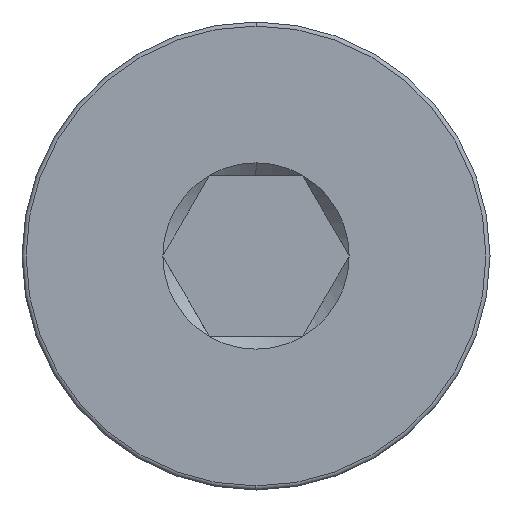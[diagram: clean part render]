
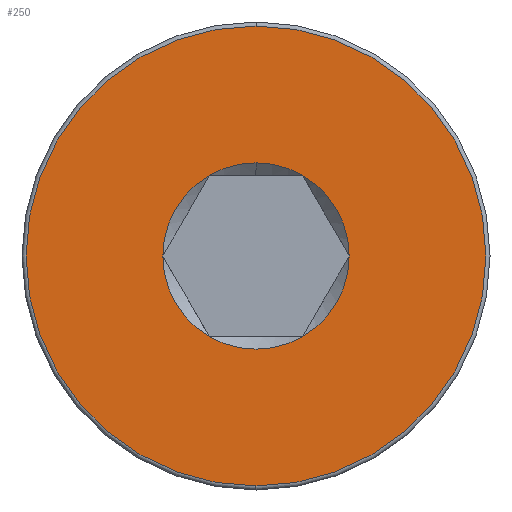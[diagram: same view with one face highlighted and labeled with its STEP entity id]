
A CAD part, left-side view. The second image highlights one B-rep face of the part: STEP entity #250.
In plain terms, the highlighted planar face has unit normal (-1, 0, 0).
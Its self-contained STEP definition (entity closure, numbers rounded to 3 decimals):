
#14 = DIRECTION ( 'NONE',  ( 0., 0., -1. ) ) ;
#17 = CIRCLE ( 'NONE', #689, 1.155 ) ;
#20 = VERTEX_POINT ( 'NONE', #426 ) ;
#33 = DIRECTION ( 'NONE',  ( 1., 0., 0. ) ) ;
#36 = ORIENTED_EDGE ( 'NONE', *, *, #466, .T. ) ;
#43 = CIRCLE ( 'NONE', #365, 1.155 ) ;
#57 = CARTESIAN_POINT ( 'NONE',  ( 0., 0., -2.85 ) ) ;
#69 = CARTESIAN_POINT ( 'NONE',  ( 0., 0., 0. ) ) ;
#72 = CIRCLE ( 'NONE', #224, 1.155 ) ;
#85 = CIRCLE ( 'NONE', #296, 1.155 ) ;
#90 = EDGE_CURVE ( 'NONE', #775, #651, #139, .T. ) ;
#101 = CARTESIAN_POINT ( 'NONE',  ( 0., -0.577, 1. ) ) ;
#103 = AXIS2_PLACEMENT_3D ( 'NONE', #712, #409, #288 ) ;
#111 = FACE_BOUND ( 'NONE', #747, .T. ) ;
#129 = CARTESIAN_POINT ( 'NONE',  ( 0., -1.155, 0. ) ) ;
#139 = CIRCLE ( 'NONE', #513, 1.155 ) ;
#159 = CARTESIAN_POINT ( 'NONE',  ( 0., 0., 0. ) ) ;
#161 = DIRECTION ( 'NONE',  ( -1., 0., 0. ) ) ;
#168 = PLANE ( 'NONE',  #327 ) ;
#181 = CIRCLE ( 'NONE', #619, 1.155 ) ;
#196 = DIRECTION ( 'NONE',  ( 0., 0., -1. ) ) ;
#214 = FACE_OUTER_BOUND ( 'NONE', #604, .T. ) ;
#222 = EDGE_CURVE ( 'NONE', #463, #252, #181, .T. ) ;
#223 = CARTESIAN_POINT ( 'NONE',  ( 0., 0., 0. ) ) ;
#224 = AXIS2_PLACEMENT_3D ( 'NONE', #69, #670, #677 ) ;
#229 = ORIENTED_EDGE ( 'NONE', *, *, #525, .T. ) ;
#250 = ADVANCED_FACE ( 'NONE', ( #214, #111 ), #168, .T. ) ;
#252 = VERTEX_POINT ( 'NONE', #101 ) ;
#262 = ORIENTED_EDGE ( 'NONE', *, *, #90, .T. ) ;
#270 = CARTESIAN_POINT ( 'NONE',  ( 0., 0., 1.155 ) ) ;
#288 = DIRECTION ( 'NONE',  ( 0., 0., -1. ) ) ;
#296 = AXIS2_PLACEMENT_3D ( 'NONE', #723, #427, #196 ) ;
#299 = DIRECTION ( 'NONE',  ( 0., 0., -1. ) ) ;
#314 = ORIENTED_EDGE ( 'NONE', *, *, #653, .T. ) ;
#327 = AXIS2_PLACEMENT_3D ( 'NONE', #159, #636, #410 ) ;
#329 = DIRECTION ( 'NONE',  ( 0., 0., 1. ) ) ;
#365 = AXIS2_PLACEMENT_3D ( 'NONE', #649, #596, #587 ) ;
#379 = AXIS2_PLACEMENT_3D ( 'NONE', #682, #161, #329 ) ;
#409 = DIRECTION ( 'NONE',  ( 1., 0., 0. ) ) ;
#410 = DIRECTION ( 'NONE',  ( 0., 0., 1. ) ) ;
#414 = CARTESIAN_POINT ( 'NONE',  ( 0., 0.577, 1. ) ) ;
#426 = CARTESIAN_POINT ( 'NONE',  ( 0., 0., 2.85 ) ) ;
#427 = DIRECTION ( 'NONE',  ( 1., 0., 0. ) ) ;
#431 = DIRECTION ( 'NONE',  ( 1., 0., 0. ) ) ;
#432 = DIRECTION ( 'NONE',  ( 0., 0., 1. ) ) ;
#441 = CIRCLE ( 'NONE', #103, 1.155 ) ;
#453 = CIRCLE ( 'NONE', #379, 2.85 ) ;
#463 = VERTEX_POINT ( 'NONE', #270 ) ;
#466 = EDGE_CURVE ( 'NONE', #20, #586, #453, .T. ) ;
#483 = CARTESIAN_POINT ( 'NONE',  ( 0., -0.577, -1. ) ) ;
#491 = CARTESIAN_POINT ( 'NONE',  ( 0., 0., 0. ) ) ;
#504 = CIRCLE ( 'NONE', #563, 2.85 ) ;
#507 = VERTEX_POINT ( 'NONE', #695 ) ;
#513 = AXIS2_PLACEMENT_3D ( 'NONE', #491, #431, #14 ) ;
#514 = DIRECTION ( 'NONE',  ( 1., 0., 0. ) ) ;
#525 = EDGE_CURVE ( 'NONE', #651, #463, #17, .T. ) ;
#563 = AXIS2_PLACEMENT_3D ( 'NONE', #735, #608, #432 ) ;
#576 = ORIENTED_EDGE ( 'NONE', *, *, #222, .T. ) ;
#577 = CARTESIAN_POINT ( 'NONE',  ( 0., 0., 0. ) ) ;
#580 = ORIENTED_EDGE ( 'NONE', *, *, #634, .T. ) ;
#586 = VERTEX_POINT ( 'NONE', #57 ) ;
#587 = DIRECTION ( 'NONE',  ( 0., 0., -1. ) ) ;
#595 = ORIENTED_EDGE ( 'NONE', *, *, #764, .T. ) ;
#596 = DIRECTION ( 'NONE',  ( 1., 0., 0. ) ) ;
#604 = EDGE_LOOP ( 'NONE', ( #36, #666 ) ) ;
#608 = DIRECTION ( 'NONE',  ( -1., 0., 0. ) ) ;
#619 = AXIS2_PLACEMENT_3D ( 'NONE', #223, #514, #646 ) ;
#634 = EDGE_CURVE ( 'NONE', #507, #775, #441, .T. ) ;
#636 = DIRECTION ( 'NONE',  ( -1., 0., 0. ) ) ;
#638 = VERTEX_POINT ( 'NONE', #483 ) ;
#646 = DIRECTION ( 'NONE',  ( 0., 0., -1. ) ) ;
#649 = CARTESIAN_POINT ( 'NONE',  ( 0., 0., 0. ) ) ;
#651 = VERTEX_POINT ( 'NONE', #414 ) ;
#653 = EDGE_CURVE ( 'NONE', #739, #638, #43, .T. ) ;
#666 = ORIENTED_EDGE ( 'NONE', *, *, #721, .T. ) ;
#670 = DIRECTION ( 'NONE',  ( 1., 0., 0. ) ) ;
#677 = DIRECTION ( 'NONE',  ( 0., 0., -1. ) ) ;
#682 = CARTESIAN_POINT ( 'NONE',  ( 0., 0., 0. ) ) ;
#689 = AXIS2_PLACEMENT_3D ( 'NONE', #577, #33, #299 ) ;
#695 = CARTESIAN_POINT ( 'NONE',  ( 0., 0.577, -1. ) ) ;
#710 = EDGE_CURVE ( 'NONE', #638, #507, #85, .T. ) ;
#712 = CARTESIAN_POINT ( 'NONE',  ( 0., 0., 0. ) ) ;
#721 = EDGE_CURVE ( 'NONE', #586, #20, #504, .T. ) ;
#723 = CARTESIAN_POINT ( 'NONE',  ( 0., 0., 0. ) ) ;
#735 = CARTESIAN_POINT ( 'NONE',  ( 0., 0., 0. ) ) ;
#739 = VERTEX_POINT ( 'NONE', #129 ) ;
#742 = ORIENTED_EDGE ( 'NONE', *, *, #710, .T. ) ;
#747 = EDGE_LOOP ( 'NONE', ( #262, #229, #576, #595, #314, #742, #580 ) ) ;
#764 = EDGE_CURVE ( 'NONE', #252, #739, #72, .T. ) ;
#775 = VERTEX_POINT ( 'NONE', #784 ) ;
#784 = CARTESIAN_POINT ( 'NONE',  ( 0., 1.155, 0. ) ) ;
